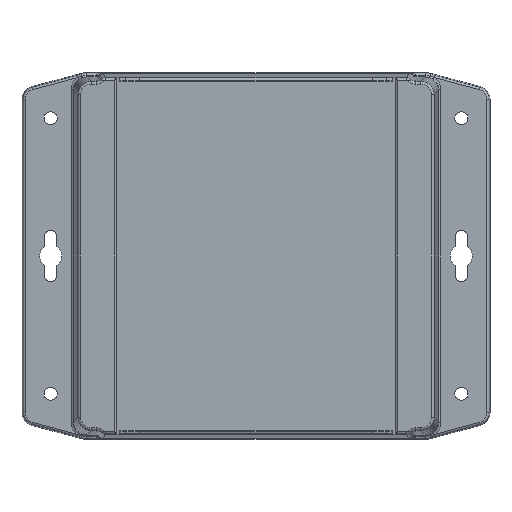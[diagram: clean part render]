
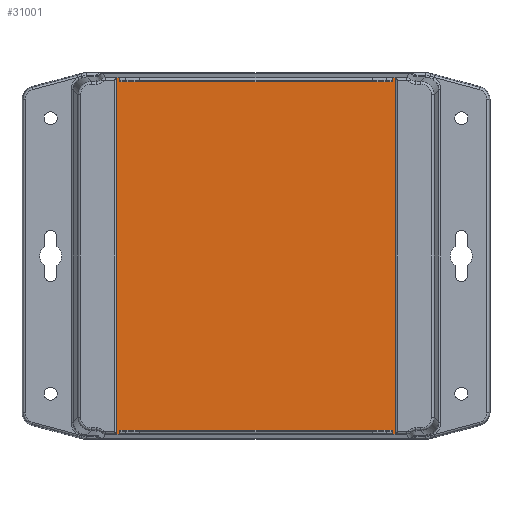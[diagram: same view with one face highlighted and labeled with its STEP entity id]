
A CAD part, front view. The second image highlights one B-rep face of the part: STEP entity #31001.
In plain terms, the highlighted planar face has unit normal (0, -1, 0).
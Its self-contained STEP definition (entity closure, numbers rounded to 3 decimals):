
#3189=FACE_OUTER_BOUND('',#5138,.T.);
#5138=EDGE_LOOP('',(#22083,#22084,#22085,#22086,#22087,#22088,#22089,#22090,
#22091,#22092,#22093,#22094));
#8423=LINE('',#46206,#10717);
#8449=LINE('',#46325,#10743);
#8465=LINE('',#46528,#10759);
#8468=LINE('',#46533,#10762);
#8480=LINE('',#46716,#10774);
#8483=LINE('',#46722,#10777);
#8495=LINE('',#46867,#10789);
#8501=LINE('',#46879,#10795);
#8552=LINE('',#47838,#10846);
#8553=LINE('',#47840,#10847);
#8554=LINE('',#47842,#10848);
#8555=LINE('',#47843,#10849);
#10717=VECTOR('',#36316,10.);
#10743=VECTOR('',#36396,10.);
#10759=VECTOR('',#36474,10.);
#10762=VECTOR('',#36477,10.);
#10774=VECTOR('',#36549,10.);
#10777=VECTOR('',#36552,10.);
#10789=VECTOR('',#36588,10.);
#10795=VECTOR('',#36602,10.);
#10846=VECTOR('',#36863,10.);
#10847=VECTOR('',#36866,10.);
#10848=VECTOR('',#36869,10.);
#10849=VECTOR('',#36870,10.);
#13080=VERTEX_POINT('',#46203);
#13081=VERTEX_POINT('',#46205);
#13106=VERTEX_POINT('',#46322);
#13107=VERTEX_POINT('',#46324);
#13138=VERTEX_POINT('',#46525);
#13139=VERTEX_POINT('',#46527);
#13141=VERTEX_POINT('',#46532);
#13166=VERTEX_POINT('',#46714);
#13168=VERTEX_POINT('',#46719);
#13169=VERTEX_POINT('',#46721);
#13180=VERTEX_POINT('',#46866);
#13182=VERTEX_POINT('',#46878);
#16238=EDGE_CURVE('',#13081,#13080,#8423,.T.);
#16278=EDGE_CURVE('',#13107,#13106,#8449,.T.);
#16322=EDGE_CURVE('',#13138,#13139,#8465,.F.);
#16325=EDGE_CURVE('',#13081,#13141,#8468,.F.);
#16363=EDGE_CURVE('',#13166,#13106,#8480,.F.);
#16366=EDGE_CURVE('',#13168,#13169,#8483,.F.);
#16388=EDGE_CURVE('',#13180,#13107,#8495,.T.);
#16394=EDGE_CURVE('',#13182,#13139,#8501,.T.);
#16542=EDGE_CURVE('',#13168,#13180,#8552,.T.);
#16543=EDGE_CURVE('',#13080,#13182,#8553,.T.);
#16544=EDGE_CURVE('',#13166,#13141,#8554,.T.);
#16545=EDGE_CURVE('',#13169,#13138,#8555,.T.);
#22083=ORIENTED_EDGE('',*,*,#16278,.T.);
#22084=ORIENTED_EDGE('',*,*,#16363,.F.);
#22085=ORIENTED_EDGE('',*,*,#16544,.T.);
#22086=ORIENTED_EDGE('',*,*,#16325,.F.);
#22087=ORIENTED_EDGE('',*,*,#16238,.T.);
#22088=ORIENTED_EDGE('',*,*,#16543,.T.);
#22089=ORIENTED_EDGE('',*,*,#16394,.T.);
#22090=ORIENTED_EDGE('',*,*,#16322,.F.);
#22091=ORIENTED_EDGE('',*,*,#16545,.F.);
#22092=ORIENTED_EDGE('',*,*,#16366,.F.);
#22093=ORIENTED_EDGE('',*,*,#16542,.T.);
#22094=ORIENTED_EDGE('',*,*,#16388,.T.);
#30101=PLANE('',#33159);
#31001=ADVANCED_FACE('',(#3189),#30101,.F.);
#33159=AXIS2_PLACEMENT_3D('',#47841,#36867,#36868);
#36316=DIRECTION('',(0.,0.,-1.));
#36396=DIRECTION('',(0.,0.,-1.));
#36474=DIRECTION('',(-1.,0.,0.));
#36477=DIRECTION('',(-1.,0.,0.));
#36549=DIRECTION('',(1.,0.,0.));
#36552=DIRECTION('',(1.,0.,0.));
#36588=DIRECTION('',(1.,0.,0.));
#36602=DIRECTION('',(0.,0.,1.));
#36863=DIRECTION('',(0.,0.,1.));
#36866=DIRECTION('',(-1.,0.,0.));
#36867=DIRECTION('center_axis',(0.,1.,0.));
#36868=DIRECTION('ref_axis',(-1.,0.,0.));
#36869=DIRECTION('',(0.,0.,1.));
#36870=DIRECTION('',(0.,0.,1.));
#46203=CARTESIAN_POINT('',(52.5,-45.2,67.));
#46205=CARTESIAN_POINT('',(52.5,-45.2,68.522));
#46206=CARTESIAN_POINT('',(52.5,-45.2,34.211));
#46322=CARTESIAN_POINT('',(52.5,-45.2,-68.522));
#46324=CARTESIAN_POINT('',(52.5,-45.2,-67.));
#46325=CARTESIAN_POINT('',(52.5,-45.2,-33.5));
#46525=CARTESIAN_POINT('',(-53.5,-45.2,68.522));
#46527=CARTESIAN_POINT('',(-52.5,-45.2,68.522));
#46528=CARTESIAN_POINT('',(-8.25,-45.2,68.522));
#46532=CARTESIAN_POINT('',(53.5,-45.2,68.522));
#46533=CARTESIAN_POINT('',(-8.25,-45.2,68.522));
#46714=CARTESIAN_POINT('',(53.5,-45.2,-68.522));
#46716=CARTESIAN_POINT('',(61.75,-45.2,-68.522));
#46719=CARTESIAN_POINT('',(-52.5,-45.2,-68.522));
#46721=CARTESIAN_POINT('',(-53.5,-45.2,-68.522));
#46722=CARTESIAN_POINT('',(61.75,-45.2,-68.522));
#46866=CARTESIAN_POINT('',(-52.5,-45.2,-67.));
#46867=CARTESIAN_POINT('',(0.5,-45.2,-67.));
#46878=CARTESIAN_POINT('',(-52.5,-45.2,67.));
#46879=CARTESIAN_POINT('',(-52.5,-45.2,33.5));
#47838=CARTESIAN_POINT('',(-52.5,-45.2,-34.211));
#47840=CARTESIAN_POINT('',(53.,-45.2,67.));
#47841=CARTESIAN_POINT('Origin',(53.5,-45.2,0.));
#47842=CARTESIAN_POINT('',(53.5,-45.2,0.));
#47843=CARTESIAN_POINT('',(-53.5,-45.2,0.));
